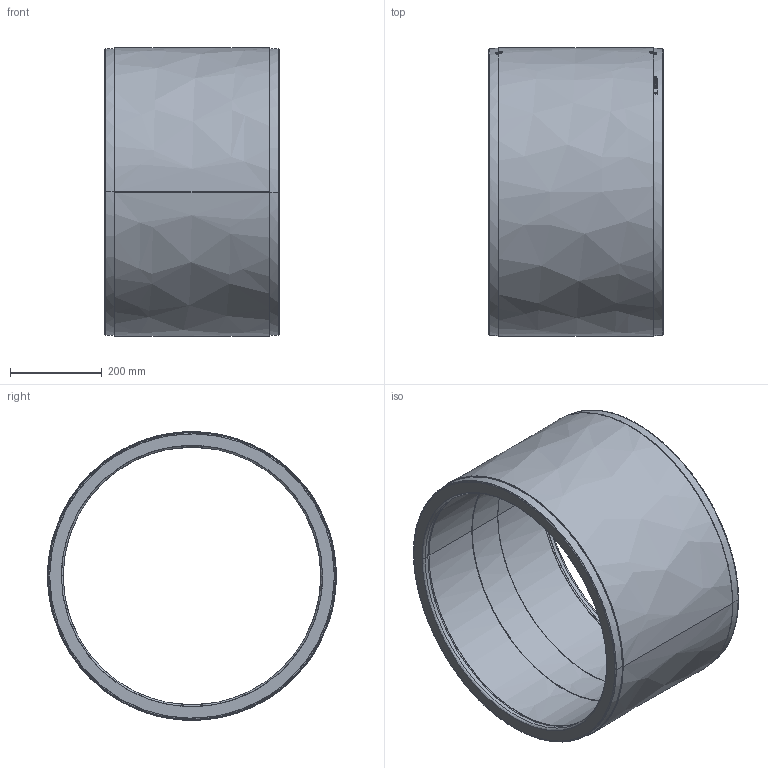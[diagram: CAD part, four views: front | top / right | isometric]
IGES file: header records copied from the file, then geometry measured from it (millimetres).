
Start section:  PTC IGES file: am_d560.igs
Global section: file name: am_d560.igs; native system: Pro/ENGINEER by Parametric Technology Corporation; preprocessor: 2011490; author: mtunjic; organization: Unknown; date: 20130729.162704; units: millimetre
Bounding box: 380 x 630 x 630 mm (x, y, z)
Surface area: 1538742.3 mm2 (no closed solid volume)
Topology: 0 solids, 0 shells, 175 faces, 876 edges, 876 vertices
Faces by surface type: bspline 175
